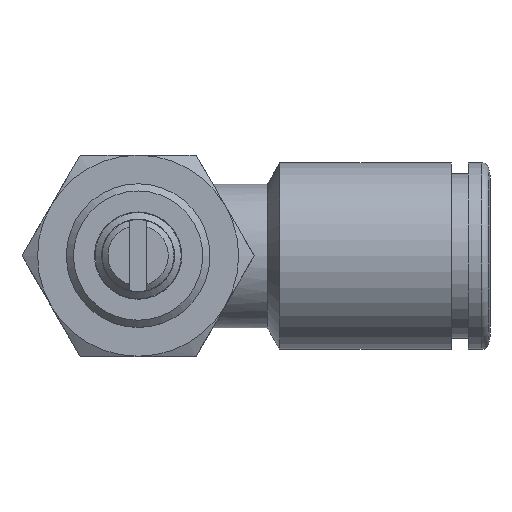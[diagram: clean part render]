
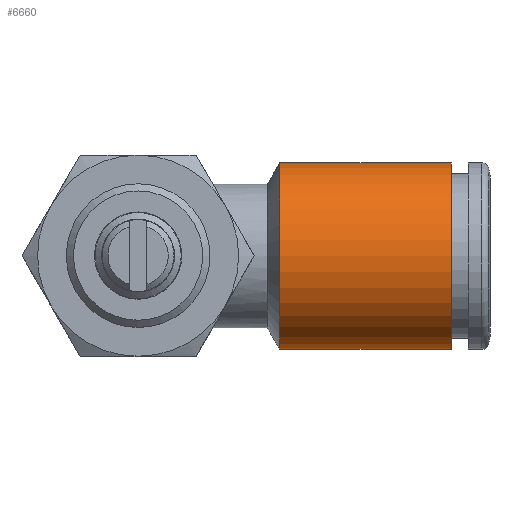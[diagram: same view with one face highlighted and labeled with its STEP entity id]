
A CAD part, top view. The second image highlights one B-rep face of the part: STEP entity #6660.
In plain terms, the highlighted cylindrical face has radius 6.5 mm (diameter 13 mm), a full revolution.
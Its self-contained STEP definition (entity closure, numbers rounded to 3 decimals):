
#6660=ADVANCED_FACE('', (#6670,#6680), #6690, .T.);
#19210=AXIS2_PLACEMENT_3D('Ax2Pl3d', #19220, #19230, #19240);
#20690=AXIS2_PLACEMENT_3D('Ax2Pl3d', #20700, #20710, #20720);
#20730=AXIS2_PLACEMENT_3D('Ax2Pl3d', #20740, #20750, #20760);
#19220=CARTESIAN_POINT('HicPkt', (34.825,12.153,
15.112));
#88740=CARTESIAN_POINT('', (34.825,12.153,8.612));
#20700=CARTESIAN_POINT('HicPkt', (22.891,12.153,
15.112));
#88930=CARTESIAN_POINT('', (22.891,12.153,8.612));
#20740=CARTESIAN_POINT('HicPkt', (34.825,12.153,
15.112));
#90290=CIRCLE('Circle', #19210, 6.5);
#90470=CIRCLE('Circle', #20690, 6.5);
#6690=CYLINDRICAL_SURFACE('Zyl', #20730, 6.5);
#19230=DIRECTION('Axis', (1.,0.,0.));
#19240=DIRECTION('RefDirection', (0.,-0.,-1.));
#20710=DIRECTION('Axis', (1.,0.,0.));
#20720=DIRECTION('RefDirection', (0.,-0.,-1.));
#20750=DIRECTION('Axis', (-1.,0.,0.)
);
#20760=DIRECTION('RefDirection', (0.,
0.,-1.));
#101650=EDGE_CURVE('', #101660, #101660, #90290, .T.);
#102040=EDGE_CURVE('', #102050, #102050, #90470, .T.);
#109340=EDGE_LOOP('Edge_loop', (#109350));
#109360=EDGE_LOOP('Edge_loop', (#109370));
#6680=FACE_BOUND('', #109360, .T.);
#6670=FACE_OUTER_BOUND('Face_outer_bound', #109340, .T.);
#109350=ORIENTED_EDGE('', *, *, #102040, .T.);
#109370=ORIENTED_EDGE('', *, *, #101650, .F.);
#101660=VERTEX_POINT('', #88740);
#102050=VERTEX_POINT('', #88930);
